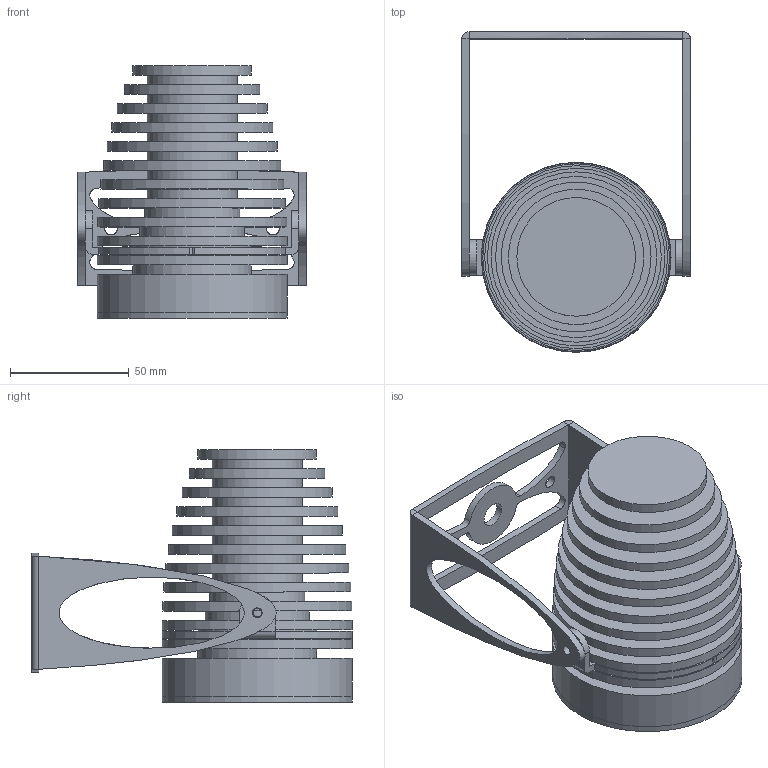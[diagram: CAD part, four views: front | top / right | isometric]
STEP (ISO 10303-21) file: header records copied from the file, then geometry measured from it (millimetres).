
FILE_DESCRIPTION(/* description */ (''),/* implementation_level */ '2;1');
FILE_NAME(/* name */ 'C:/Users/elena/Desktop/Titti Bracket.step',/* time_stamp */ '2020-07-01T13:31:08+02:00',/* author */ (''),/* organization */ (''),/* preprocessor_version */ 'ST-DEVELOPER v18.1',/* originating_system */ 'Autodesk Translation Framework v9.3.0.1241',/* authorisation */ '');
FILE_SCHEMA (('AUTOMOTIVE_DESIGN { 1 0 10303 214 3 1 1 }'));
Length unit declared in the file: millimetre
Products named in the file (1): (Unsaved)
Bounding box: 96.43 x 135.01 x 106.52 mm (x, y, z)
Volume: 319547.4 mm3; surface area: 129836 mm2
Topology: 5 solids, 7 shells, 136 faces, 307 edges, 185 vertices
Faces by surface type: plane 58, cylinder 53, bspline 24, cone 1
Full cylindrical faces by diameter (mm): 3 x4, 3.5 x2, 4.1 x2, 38 x7, 40 x1, 44 x1, 47 x1, 50 x4, 57.09 x1, 63.112 x1, 66.5 x1, 67.936 x1, 71.788 x1, 74.809 x1, 77.09 x1, 78.693 x1, 79.656 x1, 80 x4
Entity records: 4741 total; most frequent: CARTESIAN_POINT 1587, DIRECTION 651, ORIENTED_EDGE 621, EDGE_CURVE 311, AXIS2_PLACEMENT_3D 248, VERTEX_POINT 190, EDGE_LOOP 170, LINE 155
